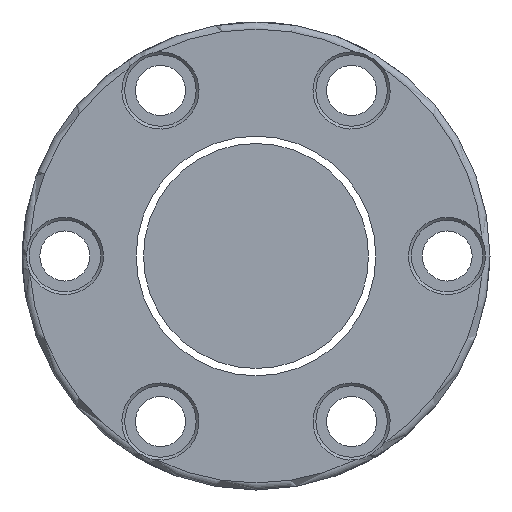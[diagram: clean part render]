
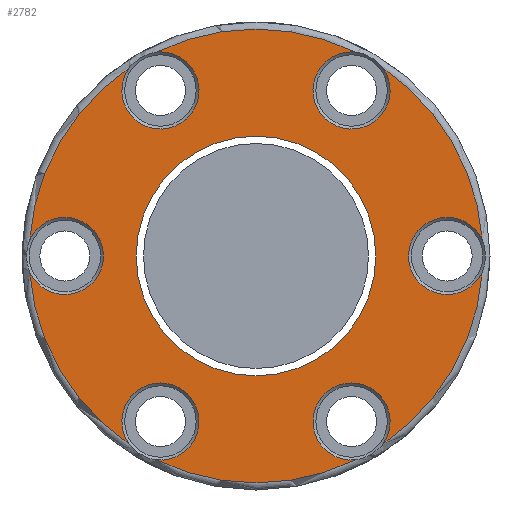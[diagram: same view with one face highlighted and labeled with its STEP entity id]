
A CAD part, left-side view. The second image highlights one B-rep face of the part: STEP entity #2782.
In plain terms, the highlighted planar face has unit normal (-1, 0, 0).
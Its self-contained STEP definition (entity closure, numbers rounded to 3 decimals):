
#39 = VERTEX_POINT ( 'NONE', #1861 ) ;
#69 = VERTEX_POINT ( 'NONE', #1912 ) ;
#91 = FACE_OUTER_BOUND ( 'NONE', #2132, .T. ) ;
#106 = VERTEX_POINT ( 'NONE', #429 ) ;
#128 = CARTESIAN_POINT ( 'NONE',  ( -153., 53.5, 0. ) ) ;
#152 = ORIENTED_EDGE ( 'NONE', *, *, #2607, .T. ) ;
#158 = DIRECTION ( 'NONE',  ( 1., 0., 0. ) ) ;
#166 = CIRCLE ( 'NONE', #2764, 63.5 ) ;
#187 = ORIENTED_EDGE ( 'NONE', *, *, #2306, .T. ) ;
#188 = AXIS2_PLACEMENT_3D ( 'NONE', #2008, #2472, #2261 ) ;
#216 = CIRCLE ( 'NONE', #1947, 63.5 ) ;
#243 = EDGE_CURVE ( 'NONE', #2080, #2926, #216, .T. ) ;
#265 = CIRCLE ( 'NONE', #2458, 63.5 ) ;
#320 = CARTESIAN_POINT ( 'NONE',  ( -153., 33.55, 0. ) ) ;
#341 = VERTEX_POINT ( 'NONE', #500 ) ;
#385 = DIRECTION ( 'NONE',  ( 0., -1., 0. ) ) ;
#406 = CARTESIAN_POINT ( 'NONE',  ( -153., -53.5, 0. ) ) ;
#418 = AXIS2_PLACEMENT_3D ( 'NONE', #128, #621, #385 ) ;
#429 = CARTESIAN_POINT ( 'NONE',  ( -153., -63.344, 4.441 ) ) ;
#436 = DIRECTION ( 'NONE',  ( 0., -1., 0. ) ) ;
#441 = DIRECTION ( 'NONE',  ( 1., 0., 0. ) ) ;
#456 = CARTESIAN_POINT ( 'NONE',  ( -153., 0., 0. ) ) ;
#500 = CARTESIAN_POINT ( 'NONE',  ( -153., -35.519, 52.637 ) ) ;
#503 = ORIENTED_EDGE ( 'NONE', *, *, #243, .T. ) ;
#531 = ORIENTED_EDGE ( 'NONE', *, *, #984, .T. ) ;
#608 = EDGE_CURVE ( 'NONE', #341, #39, #775, .T. ) ;
#621 = DIRECTION ( 'NONE',  ( 1., 0., 0. ) ) ;
#663 = DIRECTION ( 'NONE',  ( -1., 0., 0. ) ) ;
#688 = DIRECTION ( 'NONE',  ( 1., 0., 0. ) ) ;
#694 = DIRECTION ( 'NONE',  ( 1., 0., 0. ) ) ;
#775 = CIRCLE ( 'NONE', #1590, 10.8 ) ;
#779 = VERTEX_POINT ( 'NONE', #1009 ) ;
#807 = EDGE_CURVE ( 'NONE', #2546, #779, #2354, .T. ) ;
#842 = VERTEX_POINT ( 'NONE', #2817 ) ;
#919 = CARTESIAN_POINT ( 'NONE',  ( -153., 0., 0. ) ) ;
#922 = DIRECTION ( 'NONE',  ( 0., -1., 0. ) ) ;
#927 = DIRECTION ( 'NONE',  ( 0., -1., 0. ) ) ;
#946 = EDGE_CURVE ( 'NONE', #69, #2080, #3019, .T. ) ;
#952 = AXIS2_PLACEMENT_3D ( 'NONE', #1658, #441, #922 ) ;
#984 = EDGE_CURVE ( 'NONE', #106, #341, #166, .T. ) ;
#1003 = AXIS2_PLACEMENT_3D ( 'NONE', #3090, #158, #2330 ) ;
#1007 = PLANE ( 'NONE',  #188 ) ;
#1009 = CARTESIAN_POINT ( 'NONE',  ( -153., -27.826, -57.079 ) ) ;
#1055 = DIRECTION ( 'NONE',  ( -1., 0., 0. ) ) ;
#1095 = VERTEX_POINT ( 'NONE', #2367 ) ;
#1133 = CIRCLE ( 'NONE', #1397, 10.8 ) ;
#1188 = AXIS2_PLACEMENT_3D ( 'NONE', #2881, #688, #2638 ) ;
#1189 = CARTESIAN_POINT ( 'NONE',  ( -153., 63.344, -4.441 ) ) ;
#1192 = ORIENTED_EDGE ( 'NONE', *, *, #946, .T. ) ;
#1196 = CARTESIAN_POINT ( 'NONE',  ( -153., 35.519, 52.637 ) ) ;
#1238 = EDGE_CURVE ( 'NONE', #779, #2240, #3021, .T. ) ;
#1298 = VERTEX_POINT ( 'NONE', #320 ) ;
#1337 = EDGE_CURVE ( 'NONE', #2240, #1095, #2152, .T. ) ;
#1364 = DIRECTION ( 'NONE',  ( -1., 0., 0. ) ) ;
#1381 = CARTESIAN_POINT ( 'NONE',  ( -153., 0., 0. ) ) ;
#1397 = AXIS2_PLACEMENT_3D ( 'NONE', #406, #3112, #2111 ) ;
#1407 = ORIENTED_EDGE ( 'NONE', *, *, #2888, .T. ) ;
#1435 = DIRECTION ( 'NONE',  ( -1., 0., 0. ) ) ;
#1436 = EDGE_CURVE ( 'NONE', #2926, #2546, #1792, .T. ) ;
#1485 = AXIS2_PLACEMENT_3D ( 'NONE', #1381, #1819, #2347 ) ;
#1554 = ORIENTED_EDGE ( 'NONE', *, *, #1238, .T. ) ;
#1590 = AXIS2_PLACEMENT_3D ( 'NONE', #2442, #3145, #3160 ) ;
#1646 = DIRECTION ( 'NONE',  ( -1., 0., 0. ) ) ;
#1652 = CARTESIAN_POINT ( 'NONE',  ( -153., -26.75, -46.332 ) ) ;
#1658 = CARTESIAN_POINT ( 'NONE',  ( -153., 26.75, 46.332 ) ) ;
#1746 = ORIENTED_EDGE ( 'NONE', *, *, #807, .T. ) ;
#1792 = CIRCLE ( 'NONE', #1188, 10.8 ) ;
#1819 = DIRECTION ( 'NONE',  ( -1., 0., 0. ) ) ;
#1826 = ORIENTED_EDGE ( 'NONE', *, *, #1938, .T. ) ;
#1850 = CARTESIAN_POINT ( 'NONE',  ( -153., 0., 0. ) ) ;
#1861 = CARTESIAN_POINT ( 'NONE',  ( -153., -27.826, 57.079 ) ) ;
#1870 = CIRCLE ( 'NONE', #952, 10.8 ) ;
#1912 = CARTESIAN_POINT ( 'NONE',  ( -153., 63.344, 4.441 ) ) ;
#1929 = ORIENTED_EDGE ( 'NONE', *, *, #1337, .T. ) ;
#1938 = EDGE_CURVE ( 'NONE', #1095, #106, #1133, .T. ) ;
#1947 = AXIS2_PLACEMENT_3D ( 'NONE', #456, #1435, #2948 ) ;
#1972 = ORIENTED_EDGE ( 'NONE', *, *, #1977, .T. ) ;
#1977 = EDGE_CURVE ( 'NONE', #39, #842, #265, .T. ) ;
#1995 = CARTESIAN_POINT ( 'NONE',  ( -153., 0., 0. ) ) ;
#2008 = CARTESIAN_POINT ( 'NONE',  ( -153., 65.5, 0. ) ) ;
#2028 = DIRECTION ( 'NONE',  ( 0., -1., 0. ) ) ;
#2080 = VERTEX_POINT ( 'NONE', #1189 ) ;
#2085 = EDGE_LOOP ( 'NONE', ( #152 ) ) ;
#2108 = CARTESIAN_POINT ( 'NONE',  ( -153., 0., 0. ) ) ;
#2111 = DIRECTION ( 'NONE',  ( 0., -1., 0. ) ) ;
#2132 = EDGE_LOOP ( 'NONE', ( #1826, #531, #2952, #1972, #1407, #187, #1192, #503, #3066, #1746, #1554, #1929 ) ) ;
#2152 = CIRCLE ( 'NONE', #2562, 63.5 ) ;
#2240 = VERTEX_POINT ( 'NONE', #2608 ) ;
#2261 = DIRECTION ( 'NONE',  ( 0., -1., 0. ) ) ;
#2277 = FACE_BOUND ( 'NONE', #2085, .T. ) ;
#2306 = EDGE_CURVE ( 'NONE', #2371, #69, #2450, .T. ) ;
#2330 = DIRECTION ( 'NONE',  ( 0., 1., 0. ) ) ;
#2332 = DIRECTION ( 'NONE',  ( 0., -1., 0. ) ) ;
#2347 = DIRECTION ( 'NONE',  ( 0., -1., 0. ) ) ;
#2354 = CIRCLE ( 'NONE', #2762, 63.5 ) ;
#2355 = CARTESIAN_POINT ( 'NONE',  ( -153., 35.519, -52.637 ) ) ;
#2367 = CARTESIAN_POINT ( 'NONE',  ( -153., -63.344, -4.441 ) ) ;
#2371 = VERTEX_POINT ( 'NONE', #1196 ) ;
#2442 = CARTESIAN_POINT ( 'NONE',  ( -153., -26.75, 46.332 ) ) ;
#2450 = CIRCLE ( 'NONE', #1485, 63.5 ) ;
#2458 = AXIS2_PLACEMENT_3D ( 'NONE', #919, #663, #2805 ) ;
#2472 = DIRECTION ( 'NONE',  ( -1., 0., 0. ) ) ;
#2546 = VERTEX_POINT ( 'NONE', #2591 ) ;
#2562 = AXIS2_PLACEMENT_3D ( 'NONE', #1850, #1646, #927 ) ;
#2591 = CARTESIAN_POINT ( 'NONE',  ( -153., 27.826, -57.079 ) ) ;
#2607 = EDGE_CURVE ( 'NONE', #1298, #1298, #2737, .T. ) ;
#2608 = CARTESIAN_POINT ( 'NONE',  ( -153., -35.519, -52.637 ) ) ;
#2638 = DIRECTION ( 'NONE',  ( 0., -1., 0. ) ) ;
#2713 = AXIS2_PLACEMENT_3D ( 'NONE', #1652, #694, #436 ) ;
#2737 = CIRCLE ( 'NONE', #1003, 33.55 ) ;
#2762 = AXIS2_PLACEMENT_3D ( 'NONE', #1995, #1055, #2028 ) ;
#2764 = AXIS2_PLACEMENT_3D ( 'NONE', #2108, #1364, #2332 ) ;
#2782 = ADVANCED_FACE ( 'NONE', ( #91, #2277 ), #1007, .T. ) ;
#2805 = DIRECTION ( 'NONE',  ( 0., -1., 0. ) ) ;
#2817 = CARTESIAN_POINT ( 'NONE',  ( -153., 27.826, 57.079 ) ) ;
#2881 = CARTESIAN_POINT ( 'NONE',  ( -153., 26.75, -46.332 ) ) ;
#2888 = EDGE_CURVE ( 'NONE', #842, #2371, #1870, .T. ) ;
#2926 = VERTEX_POINT ( 'NONE', #2355 ) ;
#2948 = DIRECTION ( 'NONE',  ( 0., -1., 0. ) ) ;
#2952 = ORIENTED_EDGE ( 'NONE', *, *, #608, .T. ) ;
#3019 = CIRCLE ( 'NONE', #418, 10.8 ) ;
#3021 = CIRCLE ( 'NONE', #2713, 10.8 ) ;
#3066 = ORIENTED_EDGE ( 'NONE', *, *, #1436, .T. ) ;
#3090 = CARTESIAN_POINT ( 'NONE',  ( -153., 0., 0. ) ) ;
#3112 = DIRECTION ( 'NONE',  ( 1., 0., 0. ) ) ;
#3145 = DIRECTION ( 'NONE',  ( 1., 0., 0. ) ) ;
#3160 = DIRECTION ( 'NONE',  ( 0., -1., 0. ) ) ;
